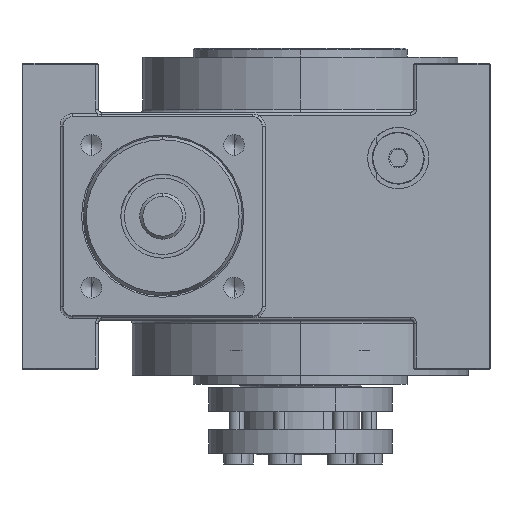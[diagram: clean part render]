
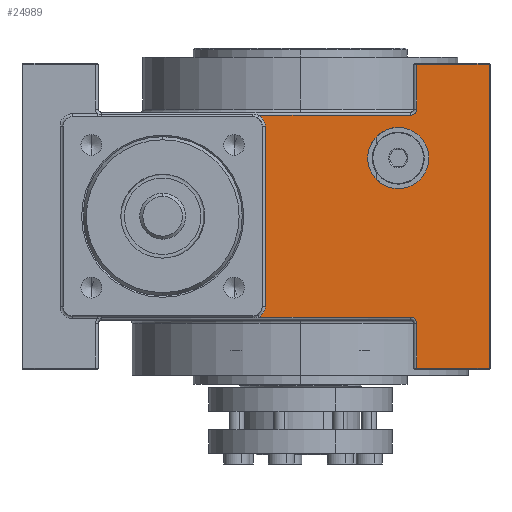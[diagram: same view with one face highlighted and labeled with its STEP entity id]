
A CAD part, left-side view. The second image highlights one B-rep face of the part: STEP entity #24989.
In plain terms, the highlighted planar face has unit normal (-1, 0, 0).
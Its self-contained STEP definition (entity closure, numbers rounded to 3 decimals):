
#1721 = CARTESIAN_POINT ( 'NONE',  ( -62.219, -45.549, -35.5 ) ) ;
#2840 = ORIENTED_EDGE ( 'NONE', *, *, #5315, .T. ) ;
#3098 = LINE ( 'NONE', #50245, #21283 ) ;
#3230 = EDGE_LOOP ( 'NONE', ( #38083, #35173 ) ) ;
#3659 = ORIENTED_EDGE ( 'NONE', *, *, #54526, .T. ) ;
#4238 = PLANE ( 'NONE',  #55150 ) ;
#5315 = EDGE_CURVE ( 'NONE', #42682, #19025, #45560, .T. ) ;
#5577 = EDGE_CURVE ( 'NONE', #42682, #18508, #57882, .T. ) ;
#5623 = CARTESIAN_POINT ( 'NONE',  ( -62.219, 2.951, 31.5 ) ) ;
#5932 = VECTOR ( 'NONE', #38699, 1000. ) ;
#7225 = EDGE_CURVE ( 'NONE', #50205, #8176, #55605, .T. ) ;
#7453 = AXIS2_PLACEMENT_3D ( 'NONE', #39009, #9642, #58654 ) ;
#8176 = VERTEX_POINT ( 'NONE', #25467 ) ;
#9570 = VERTEX_POINT ( 'NONE', #43468 ) ;
#9606 = CARTESIAN_POINT ( 'NONE',  ( -62.219, -46.549, 31.5 ) ) ;
#9642 = DIRECTION ( 'NONE',  ( -1., 0., 0. ) ) ;
#9705 = EDGE_CURVE ( 'NONE', #39191, #8176, #25712, .T. ) ;
#9980 = DIRECTION ( 'NONE',  ( 0., 0., 1. ) ) ;
#10079 = VERTEX_POINT ( 'NONE', #44321 ) ;
#10123 = LINE ( 'NONE', #48700, #41915 ) ;
#11849 = EDGE_CURVE ( 'NONE', #21558, #49702, #43486, .T. ) ;
#12291 = VECTOR ( 'NONE', #41884, 1000. ) ;
#12322 = VERTEX_POINT ( 'NONE', #38325 ) ;
#13126 = AXIS2_PLACEMENT_3D ( 'NONE', #37963, #57308, #32913 ) ;
#13868 = CARTESIAN_POINT ( 'NONE',  ( -62.219, -44.549, 32.5 ) ) ;
#14079 = EDGE_CURVE ( 'NONE', #49702, #33181, #34774, .T. ) ;
#14327 = FACE_OUTER_BOUND ( 'NONE', #32530, .T. ) ;
#14412 = CARTESIAN_POINT ( 'NONE',  ( -62.219, -40.549, 26.5 ) ) ;
#14920 = VERTEX_POINT ( 'NONE', #14412 ) ;
#15190 = DIRECTION ( 'NONE',  ( 0., 1., 0. ) ) ;
#15436 = ORIENTED_EDGE ( 'NONE', *, *, #49040, .T. ) ;
#15794 = CARTESIAN_POINT ( 'NONE',  ( -62.219, -46.549, 47.2 ) ) ;
#15842 = CARTESIAN_POINT ( 'NONE',  ( -62.219, -70.249, -52.2 ) ) ;
#17034 = AXIS2_PLACEMENT_3D ( 'NONE', #52033, #23802, #53250 ) ;
#17118 = ORIENTED_EDGE ( 'NONE', *, *, #60688, .T. ) ;
#17151 = VECTOR ( 'NONE', #34472, 1000. ) ;
#17819 = EDGE_CURVE ( 'NONE', #14920, #9570, #17919, .T. ) ;
#17919 = CIRCLE ( 'NONE', #40116, 10. ) ;
#18508 = VERTEX_POINT ( 'NONE', #34863 ) ;
#19025 = VERTEX_POINT ( 'NONE', #25289 ) ;
#20461 = DIRECTION ( 'NONE',  ( 0., 0., -1. ) ) ;
#20747 = DIRECTION ( 'NONE',  ( 0., 0., -1. ) ) ;
#21283 = VECTOR ( 'NONE', #41652, 1000. ) ;
#21558 = VERTEX_POINT ( 'NONE', #15842 ) ;
#21944 = VERTEX_POINT ( 'NONE', #50193 ) ;
#22549 = CARTESIAN_POINT ( 'NONE',  ( -62.219, -67.549, 31.5 ) ) ;
#22923 = EDGE_CURVE ( 'NONE', #50205, #21944, #10123, .T. ) ;
#23006 = CARTESIAN_POINT ( 'NONE',  ( -62.219, 5.015, -35.5 ) ) ;
#23802 = DIRECTION ( 'NONE',  ( 1., 0., 0. ) ) ;
#23946 = DIRECTION ( 'NONE',  ( 0., 0., -1. ) ) ;
#24123 = CARTESIAN_POINT ( 'NONE',  ( -62.219, -46.549, -37.5 ) ) ;
#24608 = DIRECTION ( 'NONE',  ( 0., 0., -1. ) ) ;
#24693 = ORIENTED_EDGE ( 'NONE', *, *, #14079, .T. ) ;
#24989 = ADVANCED_FACE ( 'NONE', ( #14327, #38014 ), #4238, .F. ) ;
#25289 = CARTESIAN_POINT ( 'NONE',  ( -62.219, 5.015, 30.5 ) ) ;
#25467 = CARTESIAN_POINT ( 'NONE',  ( -62.219, -44.549, -35.5 ) ) ;
#25712 = LINE ( 'NONE', #1721, #5932 ) ;
#25911 = VECTOR ( 'NONE', #20461, 1000. ) ;
#29585 = LINE ( 'NONE', #5623, #25911 ) ;
#29885 = ORIENTED_EDGE ( 'NONE', *, *, #9705, .T. ) ;
#29922 = ORIENTED_EDGE ( 'NONE', *, *, #11849, .T. ) ;
#30509 = DIRECTION ( 'NONE',  ( -1., 0., 0. ) ) ;
#30590 = AXIS2_PLACEMENT_3D ( 'NONE', #13868, #52478, #23946 ) ;
#31314 = AXIS2_PLACEMENT_3D ( 'NONE', #34321, #30509, #20747 ) ;
#31663 = EDGE_CURVE ( 'NONE', #12322, #39191, #52539, .T. ) ;
#32530 = EDGE_LOOP ( 'NONE', ( #44704, #17118, #29922, #24693, #50714, #52749, #2840, #15436, #3659, #48637, #29885, #56614 ) ) ;
#32913 = DIRECTION ( 'NONE',  ( 0., 0., -1. ) ) ;
#33181 = VERTEX_POINT ( 'NONE', #15794 ) ;
#34321 = CARTESIAN_POINT ( 'NONE',  ( -62.219, -44.549, -37.5 ) ) ;
#34472 = DIRECTION ( 'NONE',  ( 0., 1., 0. ) ) ;
#34774 = LINE ( 'NONE', #53469, #49852 ) ;
#34863 = CARTESIAN_POINT ( 'NONE',  ( -62.219, -46.549, 32.5 ) ) ;
#35173 = ORIENTED_EDGE ( 'NONE', *, *, #43229, .F. ) ;
#37963 = CARTESIAN_POINT ( 'NONE',  ( -62.219, 6.951, -32. ) ) ;
#38014 = FACE_BOUND ( 'NONE', #3230, .T. ) ;
#38083 = ORIENTED_EDGE ( 'NONE', *, *, #17819, .F. ) ;
#38325 = CARTESIAN_POINT ( 'NONE',  ( -62.219, 2.951, -32. ) ) ;
#38606 = VECTOR ( 'NONE', #9980, 1000. ) ;
#38699 = DIRECTION ( 'NONE',  ( 0., -1., 0. ) ) ;
#39009 = CARTESIAN_POINT ( 'NONE',  ( -62.219, -40.549, 16.5 ) ) ;
#39191 = VERTEX_POINT ( 'NONE', #23006 ) ;
#40116 = AXIS2_PLACEMENT_3D ( 'NONE', #53340, #54603, #53971 ) ;
#41013 = EDGE_CURVE ( 'NONE', #33181, #18508, #52937, .T. ) ;
#41652 = DIRECTION ( 'NONE',  ( 0., -1., 0. ) ) ;
#41870 = DIRECTION ( 'NONE',  ( 0., 0., -1. ) ) ;
#41884 = DIRECTION ( 'NONE',  ( 0., 0., -1. ) ) ;
#41915 = VECTOR ( 'NONE', #24608, 1000. ) ;
#42682 = VERTEX_POINT ( 'NONE', #60605 ) ;
#43229 = EDGE_CURVE ( 'NONE', #9570, #14920, #53879, .T. ) ;
#43468 = CARTESIAN_POINT ( 'NONE',  ( -62.219, -40.549, 6.5 ) ) ;
#43486 = LINE ( 'NONE', #48562, #38606 ) ;
#44321 = CARTESIAN_POINT ( 'NONE',  ( -62.219, 2.951, 27. ) ) ;
#44608 = CARTESIAN_POINT ( 'NONE',  ( -62.219, -67.549, 30.5 ) ) ;
#44704 = ORIENTED_EDGE ( 'NONE', *, *, #22923, .T. ) ;
#45560 = LINE ( 'NONE', #44608, #17151 ) ;
#48562 = CARTESIAN_POINT ( 'NONE',  ( -62.219, -70.249, 47.5 ) ) ;
#48637 = ORIENTED_EDGE ( 'NONE', *, *, #31663, .T. ) ;
#48700 = CARTESIAN_POINT ( 'NONE',  ( -62.219, -46.549, 31.5 ) ) ;
#49040 = EDGE_CURVE ( 'NONE', #19025, #10079, #53368, .T. ) ;
#49702 = VERTEX_POINT ( 'NONE', #50958 ) ;
#49852 = VECTOR ( 'NONE', #15190, 1000. ) ;
#50193 = CARTESIAN_POINT ( 'NONE',  ( -62.219, -46.549, -52.2 ) ) ;
#50205 = VERTEX_POINT ( 'NONE', #24123 ) ;
#50245 = CARTESIAN_POINT ( 'NONE',  ( -62.219, -70.549, -52.2 ) ) ;
#50714 = ORIENTED_EDGE ( 'NONE', *, *, #41013, .T. ) ;
#50958 = CARTESIAN_POINT ( 'NONE',  ( -62.219, -70.249, 47.2 ) ) ;
#52033 = CARTESIAN_POINT ( 'NONE',  ( -62.219, 6.951, 27. ) ) ;
#52478 = DIRECTION ( 'NONE',  ( -1., 0., 0. ) ) ;
#52539 = CIRCLE ( 'NONE', #13126, 4. ) ;
#52749 = ORIENTED_EDGE ( 'NONE', *, *, #5577, .F. ) ;
#52919 = DIRECTION ( 'NONE',  ( 1., 0., 0. ) ) ;
#52937 = LINE ( 'NONE', #9606, #12291 ) ;
#53250 = DIRECTION ( 'NONE',  ( 0., 0., -1. ) ) ;
#53340 = CARTESIAN_POINT ( 'NONE',  ( -62.219, -40.549, 16.5 ) ) ;
#53368 = CIRCLE ( 'NONE', #17034, 4. ) ;
#53469 = CARTESIAN_POINT ( 'NONE',  ( -62.219, -46.549, 47.2 ) ) ;
#53879 = CIRCLE ( 'NONE', #7453, 10. ) ;
#53971 = DIRECTION ( 'NONE',  ( 0., 0., 1. ) ) ;
#54526 = EDGE_CURVE ( 'NONE', #10079, #12322, #29585, .T. ) ;
#54603 = DIRECTION ( 'NONE',  ( -1., 0., 0. ) ) ;
#55150 = AXIS2_PLACEMENT_3D ( 'NONE', #22549, #52919, #41870 ) ;
#55605 = CIRCLE ( 'NONE', #31314, 2. ) ;
#56614 = ORIENTED_EDGE ( 'NONE', *, *, #7225, .F. ) ;
#57308 = DIRECTION ( 'NONE',  ( 1., 0., 0. ) ) ;
#57882 = CIRCLE ( 'NONE', #30590, 2. ) ;
#58654 = DIRECTION ( 'NONE',  ( 0., 0., 1. ) ) ;
#60605 = CARTESIAN_POINT ( 'NONE',  ( -62.219, -44.549, 30.5 ) ) ;
#60688 = EDGE_CURVE ( 'NONE', #21944, #21558, #3098, .T. ) ;
